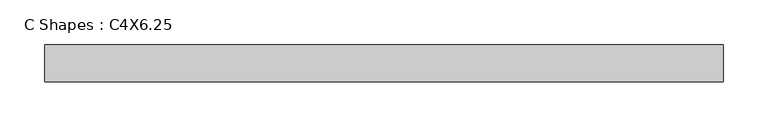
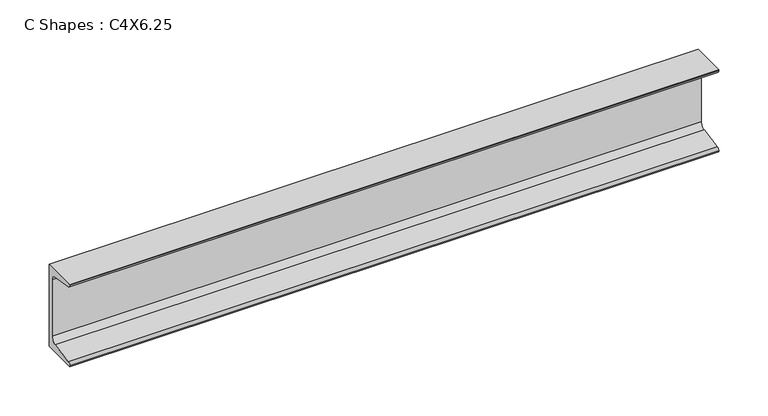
"""IFC4 building model written with IfcOpenShell, lengths in millimetres: beam geometry, C Shapes : C4X6.25."""

import ifcopenshell
import ifcopenshell.guid

model = None  # the IFC model being written
_history = None  # IfcOwnerHistory: only IFC2X3 demands one
_inside = {}  # id of a spatial element -> (the spatial element, [elements in it])
_under = {}  # id of a project, library or spatial element -> (it, [spatial elements below it])
_declared = {}  # id of a project -> (the project, [libraries it declares])
_typed = {}  # id of a type object -> (the type object, [elements of that type])
_made_of = {}  # id of a material, layer set ... -> (it, [elements and type objects made of it])


def new_model(schema):
    """Start an empty IFC model of exactly this schema.

    Asked for "IFC4X3", IfcOpenShell would pick the latest addendum, in which some entities
    have other attributes; the version numbers below select the first issue.
    IFC2X3 requires an IfcOwnerHistory on every rooted entity: one is made here for all.
    """
    global model, _history
    if schema == "IFC4X3":
        model = ifcopenshell.file(schema_version=(4, 3, 0, 0))
    else:
        model = ifcopenshell.file(schema=schema)
    _inside.clear()
    _under.clear()
    _declared.clear()
    _typed.clear()
    _made_of.clear()
    _history = None
    if model.schema == "IFC2X3":
        org = make("IfcOrganization", Name="unknown")
        user = make(
            "IfcPersonAndOrganization",
            ThePerson=make("IfcPerson", FamilyName="unknown"),
            TheOrganization=org,
        )
        app = make(
            "IfcApplication",
            ApplicationDeveloper=org,
            Version="unknown",
            ApplicationFullName="unknown",
            ApplicationIdentifier="unknown",
        )
        _history = make(
            "IfcOwnerHistory",
            OwningUser=user,
            OwningApplication=app,
            ChangeAction="ADDED",
            CreationDate=0,
        )
    return model


def make(cls, **values):
    """One entity of the class cls with the attributes given. An attribute that is None is left unset."""
    return model.create_entity(
        cls, **{name: value for name, value in values.items() if value is not None}
    )


def rooted(cls, **values):
    """An entity with a GlobalId (a new one), such as an element, a storey or a relation."""
    return make(cls, GlobalId=ifcopenshell.guid.new(), OwnerHistory=_history, **values)


def si_unit(unit_type, name, prefix=None):
    """IfcSIUnit, for example si_unit("LENGTHUNIT", "METRE", prefix="MILLI")."""
    return make("IfcSIUnit", UnitType=unit_type, Prefix=prefix, Name=name)


def assignment(units):
    """IfcUnitAssignment: the units of a project."""
    return None if units is None else make("IfcUnitAssignment", Units=units)


def point(xyz):
    """IfcCartesianPoint."""
    return None if xyz is None else make("IfcCartesianPoint", Coordinates=xyz)


def direction(xyz):
    """IfcDirection."""
    return None if xyz is None else make("IfcDirection", DirectionRatios=xyz)


def frame(location, z_axis=None, x_axis=None):
    """IfcAxis2Placement3D, a coordinate frame: its origin and axes. An axis left out is left unset."""
    return make(
        "IfcAxis2Placement3D",
        Location=point(location),
        Axis=direction(z_axis),
        RefDirection=direction(x_axis),
    )


def frame_2d(location, x_axis=None):
    """IfcAxis2Placement2D, a coordinate frame in the plane: its origin and x axis."""
    return make(
        "IfcAxis2Placement2D", Location=point(location), RefDirection=direction(x_axis)
    )


def origin():
    """The frame at (0, 0, 0) with its axes left unset."""
    return frame((0.0, 0.0, 0.0))


def place(relative_to, where):
    """IfcLocalPlacement: puts the frame where relative to a parent placement (None: the world)."""
    return make(
        "IfcLocalPlacement", PlacementRelTo=relative_to, RelativePlacement=where
    )


def context(
    kind, dimensions, precision=None, world=None, true_north=None, identifier=None
):
    """IfcGeometricRepresentationContext, for example the 3D "Model" context."""
    return make(
        "IfcGeometricRepresentationContext",
        ContextIdentifier=identifier,
        ContextType=kind,
        CoordinateSpaceDimension=dimensions,
        Precision=precision,
        WorldCoordinateSystem=world,
        TrueNorth=true_north,
    )


def project(units=None, contexts=None):
    """IfcProject with its units and contexts."""
    return rooted(
        "IfcProject",
        Name="project",
        RepresentationContexts=contexts,
        UnitsInContext=assignment(units),
    )


def spatial(cls, under=None, at=None, **own):
    """A site, building, storey or space (cls), placed at a placement, below another one or the project."""
    s = rooted(cls, ObjectPlacement=at, **own)
    if under is not None:
        _under.setdefault(under.id(), (under, []))[1].append(s)
    return s


def polyline(points):
    """IfcPolyline through the points."""
    return make("IfcPolyline", Points=[point(p) for p in points])


def circle_curve(where, radius):
    """IfcCircle in the frame where."""
    return make("IfcCircle", Position=where, Radius=radius)


def trimmed(basis, trim1, trim2, sense, master):
    """IfcTrimmedCurve: the piece of a basis curve between two trims."""
    return make(
        "IfcTrimmedCurve",
        BasisCurve=basis,
        Trim1=trim1,
        Trim2=trim2,
        SenseAgreement=sense,
        MasterRepresentation=master,
    )


def segment(curve, same_sense, transition):
    """IfcCompositeCurveSegment."""
    return make(
        "IfcCompositeCurveSegment",
        Transition=transition,
        SameSense=same_sense,
        ParentCurve=curve,
    )


def composite_curve(segments, self_intersect=None):
    """IfcCompositeCurve: segments joined end to end."""
    return make("IfcCompositeCurve", Segments=segments, SelfIntersect=self_intersect)


def outline(outer, holes=None, kind="AREA"):
    """IfcArbitraryClosedProfileDef: a profile drawn as a closed curve; with holes, ...WithVoids."""
    if holes is None:
        return make("IfcArbitraryClosedProfileDef", ProfileType=kind, OuterCurve=outer)
    return make(
        "IfcArbitraryProfileDefWithVoids",
        ProfileType=kind,
        OuterCurve=outer,
        InnerCurves=holes,
    )


def extrude(swept, where, along, depth):
    """IfcExtrudedAreaSolid: the profile swept, set in the frame where, extruded along a direction by depth."""
    return make(
        "IfcExtrudedAreaSolid",
        SweptArea=swept,
        Position=where,
        ExtrudedDirection=direction(along),
        Depth=depth,
    )


def shape(context_of_items, identifier, shape_type, items):
    """IfcShapeRepresentation: the items that make up one representation, for example the "Body"."""
    return make(
        "IfcShapeRepresentation",
        ContextOfItems=context_of_items,
        RepresentationIdentifier=identifier,
        RepresentationType=shape_type,
        Items=items,
    )


def source(mapping_origin, context_of_items, identifier, shape_type, items):
    """IfcRepresentationMap: a shape defined once, which mapped items show again and again."""
    return make(
        "IfcRepresentationMap",
        MappingOrigin=mapping_origin,
        MappedRepresentation=shape(context_of_items, identifier, shape_type, items),
    )


def transform(
    local_origin,
    x_axis=None,
    y_axis=None,
    z_axis=None,
    scale=None,
    scale2=None,
    scale3=None,
    uniform=True,
):
    """IfcCartesianTransformationOperator3D, or its non-uniform kind. x_axis, y_axis, z_axis: its Axis1, 2, 3."""
    if uniform:
        return make(
            "IfcCartesianTransformationOperator3D",
            Axis1=direction(x_axis),
            Axis2=direction(y_axis),
            LocalOrigin=point(local_origin),
            Scale=scale,
            Axis3=direction(z_axis),
        )
    return make(
        "IfcCartesianTransformationOperator3DnonUniform",
        Axis1=direction(x_axis),
        Axis2=direction(y_axis),
        LocalOrigin=point(local_origin),
        Scale=scale,
        Axis3=direction(z_axis),
        Scale2=scale2,
        Scale3=scale3,
    )


def mapped(mapping_source, mapping_target):
    """IfcMappedItem: shows the shape of a source again, moved by a transform."""
    return make(
        "IfcMappedItem", MappingSource=mapping_source, MappingTarget=mapping_target
    )


def made_of(thing, what):
    """Note that an element or type object is made of a material, layer set ...; save() writes the relation."""
    if what is not None:
        _made_of.setdefault(what.id(), (what, []))[1].append(thing)
    return thing


def element(
    cls,
    number,
    at=None,
    inside=None,
    cuts=None,
    type_object=None,
    material=None,
    context=None,
    identifier="Body",
    shape_type=None,
    held_by="IfcProductDefinitionShape",
    body=None,
    shapes=None,
    **own,
):
    """One element of the class cls, such as IfcWall. Its Tag is "e" and its number.

    at: its placement. inside: the storey or other place that contains it. cuts: it is an
    opening in that element (IfcRelVoidsElement). A single representation is given by context,
    identifier, shape_type and body (its items); several are given by shapes. held_by: the class
    of the entity that holds the representations. save() writes the other relations.
    """
    e = rooted(cls, Tag="e%d" % number, ObjectPlacement=at, **own)
    if body is not None:
        shapes = [shape(context, identifier, shape_type, body)]
    if shapes is not None:
        e.Representation = make(held_by, Representations=shapes)
    if inside is not None:
        _inside.setdefault(inside.id(), (inside, []))[1].append(e)
    if cuts is not None:
        rooted(
            "IfcRelVoidsElement", RelatingBuildingElement=cuts, RelatedOpeningElement=e
        )
    if type_object is not None:
        _typed.setdefault(type_object.id(), (type_object, []))[1].append(e)
    return made_of(e, material)


def aggregate(whole, parts):
    """IfcRelAggregates: a whole, such as a stair, and the parts it consists of."""
    return rooted("IfcRelAggregates", RelatingObject=whole, RelatedObjects=parts)


def save(model, path):
    """Write the relations noted so far, then the file.

    IfcRelAggregates (storeys below a building ...), IfcRelContainedInSpatialStructure (elements
    in a storey), IfcRelDefinesByType, IfcRelAssociatesMaterial and IfcRelDeclares: one each for
    every whole, place, type object, material and project.
    """
    for whole, parts in _under.values():
        aggregate(whole, parts)
    for where, things in _inside.values():
        rooted(
            "IfcRelContainedInSpatialStructure",
            RelatedElements=things,
            RelatingStructure=where,
        )
    for kind, things in _typed.values():
        rooted("IfcRelDefinesByType", RelatedObjects=things, RelatingType=kind)
    for what, things in _made_of.values():
        rooted("IfcRelAssociatesMaterial", RelatedObjects=things, RelatingMaterial=what)
    for by, libraries in _declared.values():
        rooted("IfcRelDeclares", RelatingContext=by, RelatedDefinitions=libraries)
    model.write(path)


def c_shapes_c4x6_25_8f4e97ee(model_context):
    return source(origin(), model_context, "Body", "SweptSolid", [
        extrude(outline(composite_curve([segment(polyline([(11.049, 50.8), (11.049, -50.8), (-30.861, -50.8), (-30.861, -49.7865772)]), True, "CONTINUOUS"), segment(trimmed(circle_curve(frame_2d((-27.4066, -49.7865772)), 3.4544), [point((-30.861, -49.7865772))], [point((-27.9743618, -46.379155))], False, "CARTESIAN"), True, "CONTINUOUS"), segment(polyline([(-27.9743618, -46.379155), (-0.9980765, -41.8842311)]), True, "CONTINUOUS"), segment(trimmed(circle_curve(frame_2d((-2.1336, -35.0693868)), 6.9088), [point((-0.9980765, -41.8842311))], [point((4.7752, -35.0693868))], True, "CARTESIAN"), True, "CONTINUOUS"), segment(polyline([(4.7752, -35.0693868), (4.7752, 35.0693868)]), True, "CONTINUOUS"), segment(trimmed(circle_curve(frame_2d((-2.1336, 35.0693868)), 6.9088), [point((4.7752, 35.0693868))], [point((-0.9980765, 41.8842311))], True, "CARTESIAN"), True, "CONTINUOUS"), segment(polyline([(-0.9980765, 41.8842311), (-27.9743618, 46.379155)]), True, "CONTINUOUS"), segment(trimmed(circle_curve(frame_2d((-27.4066, 49.7865772)), 3.4544), [point((-27.9743618, 46.379155))], [point((-30.861, 49.7865772))], False, "CARTESIAN"), True, "CONTINUOUS"), segment(polyline([(-30.861, 49.7865772), (-30.861, 50.8), (11.049, 50.8)]), True, "CONTINUOUS")], self_intersect=False)), frame((-355.219, 0.0, 0.0), z_axis=(1.0, 0.0, 0.0), x_axis=(0.0, 1.0, 0.0)), (0.0, 0.0, 1.0), 761.238),
    ])


if __name__ == "__main__":
    model = new_model("IFC4")
    model_context = context("Model", 3, world=origin())
    ifc_project = project(units=[si_unit("LENGTHUNIT", "METRE", prefix="MILLI")], contexts=[model_context])
    site = spatial("IfcSite", under=ifc_project)
    building = spatial("IfcBuilding", under=site)
    placement = place(None, origin())
    c_shapes_c4x6_25_shape = c_shapes_c4x6_25_8f4e97ee(model_context)
    element("IfcBeam", 1, ObjectType="C Shapes : C4X6.25", at=placement, inside=building, context=model_context, shape_type="MappedRepresentation", body=[
        mapped(c_shapes_c4x6_25_shape, transform((0.0, 0.0, 0.0), x_axis=(1.0, 0.0, 0.0), y_axis=(0.0, 1.0, 0.0), z_axis=(0.0, 0.0, 1.0))),
    ])
    save(model, "model.ifc")
